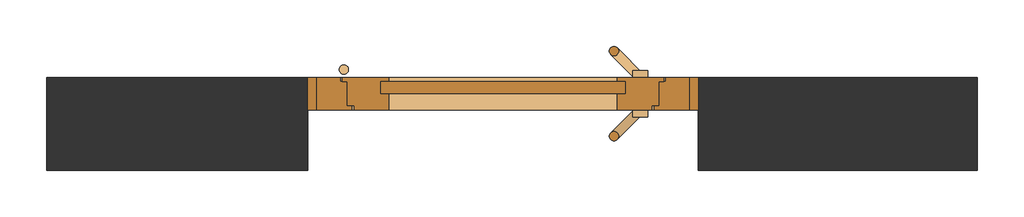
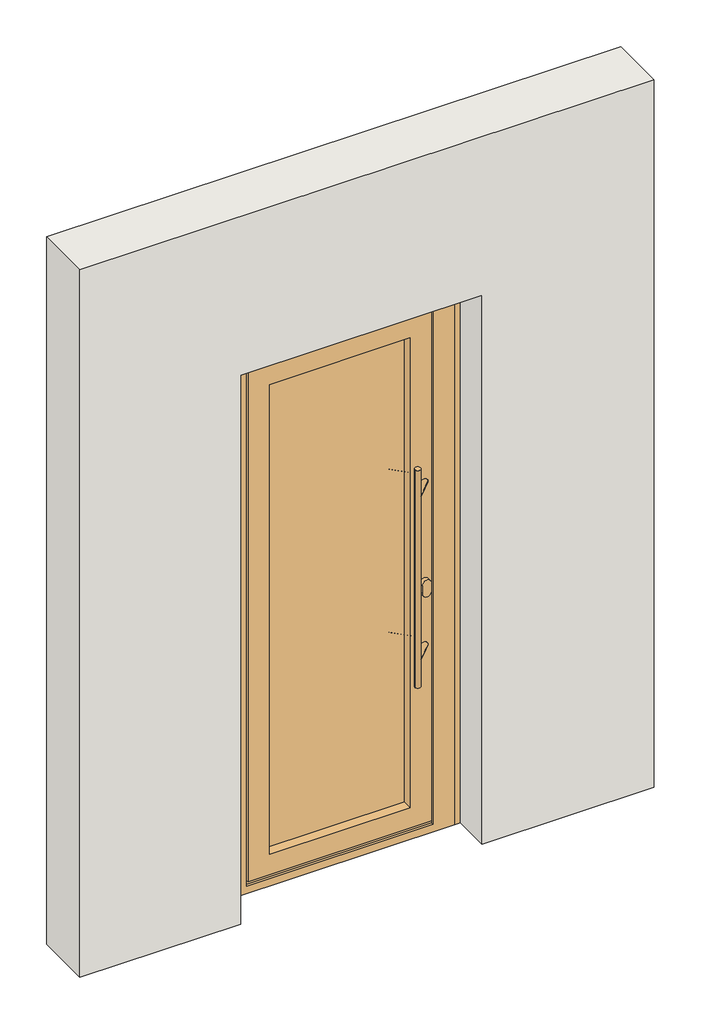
# One storey: 2 doors, 1 wall.
"""IFC4 building model written with IfcOpenShell, lengths in millimetres."""

from ifc_helpers import new_model, si_unit, frame, origin, place, context, project, spatial, polyline, outline, extrude, transform, mapped, element, save
from components import door_e2464cb3, door_bc706c30

model = new_model("IFC4")

# Units and contexts
model_context = context("Model", 3, world=origin())
ifc_project = project(units=[si_unit("LENGTHUNIT", "METRE", prefix="MILLI")], contexts=[model_context])

# Site, building, storey
site = spatial("IfcSite", under=ifc_project)
building = spatial("IfcBuilding", under=site)
storey = spatial("IfcBuildingStorey", under=building, Name="Этаж 01", Elevation=0.0)

# Doors
placement = place(None, origin())
door_shape = door_e2464cb3(model_context)
element("IfcDoor", 1, ObjectType="Alumark_фурнитура однопольной двери S70 : Alumark_фурнитура однопольной двери S70", at=placement, inside=storey, context=model_context, shape_type="MappedRepresentation", body=[
    mapped(door_shape, transform((580.654545, 0.0, 0.0), x_axis=(-1.0, 0.0, 0.0), y_axis=(0.0, -1.0, 0.0), z_axis=(0.0, 0.0, 1.0))),
])
door_2_shape = door_bc706c30(model_context)
element("IfcDoor", 2, ObjectType="Дверь.Alumark_однопольная_S70 : 960х2080 Правая Открывание наружу (СП 24мм Обычный)", at=placement, inside=storey, context=model_context, shape_type="MappedRepresentation", body=[
    mapped(door_2_shape, transform((855.654545, -100.0, 0.0), x_axis=(1.0, 0.0, 0.0), y_axis=(0.0, 1.0, 0.0), z_axis=(0.0, 0.0, 1.0))),
])

# Wall
element("IfcWall", 3, ObjectType="Типовой - 200мм", at=placement, inside=storey, context=model_context, shape_type="SweptSolid", body=[
    extrude(outline(polyline([(0.0, 2000.0), (2603.1870462, 2000.0), (2603.1870462, 0.0), (0.0, 0.0), (0.0, 560.654545), (2020.0, 560.654545), (2020.0, 1400.654545), (0.0, 1400.654545), (0.0, 2000.0)])), frame((0.0, -200.0, 0.0), z_axis=(0.0, 1.0, 0.0), x_axis=(0.0, 0.0, 1.0)), (0.0, 0.0, 1.0), 200.0),
])

save(model, "model.ifc")
